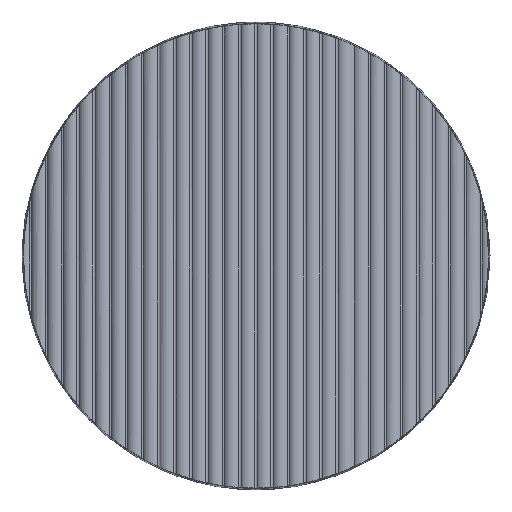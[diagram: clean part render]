
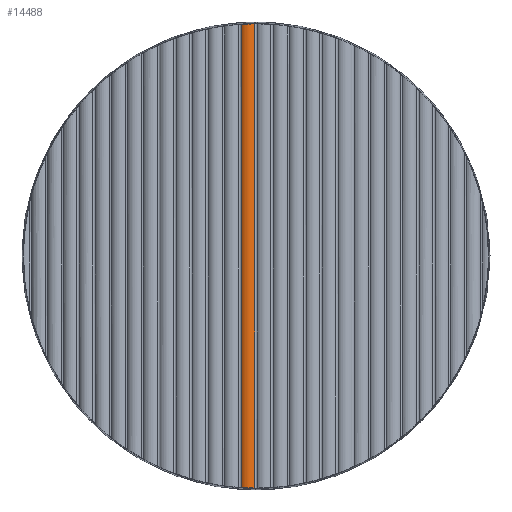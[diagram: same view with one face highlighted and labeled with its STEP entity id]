
A CAD part, front view. The second image highlights one B-rep face of the part: STEP entity #14488.
In plain terms, the highlighted cylindrical face has radius 5 mm (diameter 10 mm), a partial arc.
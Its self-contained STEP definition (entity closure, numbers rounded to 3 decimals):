
#5682=CARTESIAN_POINT('',(-7.959,-44.459,
-123.718));
#5683=CARTESIAN_POINT('',(-7.901,-44.521,
-123.721));
#5684=CARTESIAN_POINT('',(-7.782,-44.642,
-123.726));
#5685=CARTESIAN_POINT('',(-7.596,-44.812,
-123.734));
#5686=CARTESIAN_POINT('',(-7.401,-44.974,
-123.743));
#5687=CARTESIAN_POINT('',(-7.198,-45.125,
-123.752));
#5688=CARTESIAN_POINT('',(-6.988,-45.265,
-123.761));
#5689=CARTESIAN_POINT('',(-6.771,-45.395,
-123.771));
#5690=CARTESIAN_POINT('',(-6.548,-45.514,
-123.78));
#5691=CARTESIAN_POINT('',(-6.319,-45.622,
-123.79));
#5692=CARTESIAN_POINT('',(-6.085,-45.717,
-123.8));
#5693=CARTESIAN_POINT('',(-5.847,-45.801,
-123.81));
#5694=CARTESIAN_POINT('',(-5.604,-45.872,
-123.819));
#5695=CARTESIAN_POINT('',(-5.358,-45.932,
-123.829));
#5696=CARTESIAN_POINT('',(-5.11,-45.978,
-123.838));
#5697=CARTESIAN_POINT('',(-4.859,-46.012,
-123.848));
#5698=CARTESIAN_POINT('',(-4.607,-46.034,
-123.857));
#5699=CARTESIAN_POINT('',(-4.355,-46.042,
-123.866));
#5700=CARTESIAN_POINT('',(-4.102,-46.038,
-123.874));
#5701=CARTESIAN_POINT('',(-3.85,-46.021,
-123.882));
#5702=CARTESIAN_POINT('',(-3.599,-45.992,
-123.89));
#5703=CARTESIAN_POINT('',(-3.349,-45.95,
-123.898));
#5704=CARTESIAN_POINT('',(-3.103,-45.895,
-123.905));
#5705=CARTESIAN_POINT('',(-2.859,-45.828,
-123.912));
#5706=CARTESIAN_POINT('',(-2.619,-45.748,
-123.919));
#5707=CARTESIAN_POINT('',(-2.383,-45.657,
-123.925));
#5708=CARTESIAN_POINT('',(-2.153,-45.553,
-123.931));
#5709=CARTESIAN_POINT('',(-1.927,-45.439,
-123.937));
#5710=CARTESIAN_POINT('',(-1.708,-45.313,
-123.942));
#5711=CARTESIAN_POINT('',(-1.496,-45.176,
-123.947));
#5712=CARTESIAN_POINT('',(-1.291,-45.029,
-123.952));
#5713=CARTESIAN_POINT('',(-1.092,-44.87,
-123.957));
#5714=CARTESIAN_POINT('',(-0.9,-44.7,
-123.961));
#5715=CARTESIAN_POINT('',(-0.778,-44.58,
-123.964));
#5716=CARTESIAN_POINT('',(-0.718,-44.519,
-123.966));
#5718=DIRECTION('',(0.,0.,-1.));
#5719=VECTOR('',#5718,247.436);
#5720=CARTESIAN_POINT('',(-7.959,-44.459,
123.718));
#5721=LINE('',#5720,#5719);
#5722=CARTESIAN_POINT('',(-0.718,-44.519,
123.966));
#5723=CARTESIAN_POINT('',(-0.778,-44.58,
123.964));
#5724=CARTESIAN_POINT('',(-0.899,-44.699,
123.961));
#5725=CARTESIAN_POINT('',(-1.087,-44.866,
123.957));
#5726=CARTESIAN_POINT('',(-1.285,-45.024,
123.952));
#5727=CARTESIAN_POINT('',(-1.49,-45.172,
123.947));
#5728=CARTESIAN_POINT('',(-1.702,-45.309,
123.942));
#5729=CARTESIAN_POINT('',(-1.921,-45.435,
123.937));
#5730=CARTESIAN_POINT('',(-2.146,-45.55,
123.931));
#5731=CARTESIAN_POINT('',(-2.377,-45.654,
123.925));
#5732=CARTESIAN_POINT('',(-2.612,-45.746,
123.919));
#5733=CARTESIAN_POINT('',(-2.852,-45.825,
123.912));
#5734=CARTESIAN_POINT('',(-3.096,-45.893,
123.905));
#5735=CARTESIAN_POINT('',(-3.343,-45.948,
123.898));
#5736=CARTESIAN_POINT('',(-3.592,-45.991,
123.89));
#5737=CARTESIAN_POINT('',(-3.843,-46.021,
123.883));
#5738=CARTESIAN_POINT('',(-4.095,-46.038,
123.874));
#5739=CARTESIAN_POINT('',(-4.348,-46.043,
123.866));
#5740=CARTESIAN_POINT('',(-4.6,-46.034,
123.857));
#5741=CARTESIAN_POINT('',(-4.852,-46.013,
123.848));
#5742=CARTESIAN_POINT('',(-5.103,-45.979,
123.839));
#5743=CARTESIAN_POINT('',(-5.351,-45.933,
123.829));
#5744=CARTESIAN_POINT('',(-5.597,-45.874,
123.82));
#5745=CARTESIAN_POINT('',(-5.84,-45.803,
123.81));
#5746=CARTESIAN_POINT('',(-6.079,-45.72,
123.8));
#5747=CARTESIAN_POINT('',(-6.313,-45.624,
123.79));
#5748=CARTESIAN_POINT('',(-6.542,-45.517,
123.781));
#5749=CARTESIAN_POINT('',(-6.765,-45.399,
123.771));
#5750=CARTESIAN_POINT('',(-6.982,-45.269,
123.761));
#5751=CARTESIAN_POINT('',(-7.193,-45.129,
123.752));
#5752=CARTESIAN_POINT('',(-7.395,-44.978,
123.743));
#5753=CARTESIAN_POINT('',(-7.592,-44.816,
123.734));
#5754=CARTESIAN_POINT('',(-7.781,-44.643,
123.726));
#5755=CARTESIAN_POINT('',(-7.901,-44.522,
123.721));
#5756=CARTESIAN_POINT('',(-7.959,-44.459,
123.718));
#5758=DIRECTION('',(0.,0.,-1.));
#5759=VECTOR('',#5758,247.931);
#5760=CARTESIAN_POINT('',(-0.718,-44.519,
123.966));
#5761=LINE('',#5760,#5759);
#7516=CARTESIAN_POINT('',(-7.959,-44.459,
-123.718));
#7594=CARTESIAN_POINT('',(-0.718,-44.519,
123.966));
#14109=VERTEX_POINT('',#7516);
#14111=VERTEX_POINT('',#5716);
#14231=VERTEX_POINT('',#7594);
#14233=VERTEX_POINT('',#5756);
#14473=CARTESIAN_POINT('',(-4.31,-41.041,
125.));
#14474=DIRECTION('',(0.,0.,1.));
#14475=DIRECTION('',(-1.,0.,0.));
#14476=AXIS2_PLACEMENT_3D('',#14473,#14474,#14475);
#14477=CYLINDRICAL_SURFACE('',#14476,5.);
#14479=ORIENTED_EDGE('',*,*,#14478,.F.);
#14481=ORIENTED_EDGE('',*,*,#14480,.F.);
#14483=ORIENTED_EDGE('',*,*,#14482,.F.);
#14485=ORIENTED_EDGE('',*,*,#14484,.T.);
#14486=EDGE_LOOP('',(#14479,#14481,#14483,#14485));
#14487=FACE_OUTER_BOUND('',#14486,.F.);
#14488=ADVANCED_FACE('',(#14487),#14477,.T.);
#5717=B_SPLINE_CURVE_WITH_KNOTS('',3,(#5682,#5683,#5684,#5685,#5686,#5687,#5688,
#5689,#5690,#5691,#5692,#5693,#5694,#5695,#5696,#5697,#5698,#5699,#5700,#5701,
#5702,#5703,#5704,#5705,#5706,#5707,#5708,#5709,#5710,#5711,#5712,#5713,#5714,
#5715,#5716),.UNSPECIFIED.,.F.,.F.,(4,1,1,1,1,1,1,1,1,1,1,1,1,1,1,1,1,1,1,1,1,1,
1,1,1,1,1,1,1,1,1,1,4),(0.,0.031,0.063,0.094,0.125,0.156,
0.188,0.219,0.25,0.281,0.313,0.344,0.375,0.406,
0.438,0.469,0.5,0.531,0.563,0.594,0.625,0.656,
0.688,0.719,0.75,0.781,0.813,0.844,0.875,0.906,
0.938,0.969,1.),.UNSPECIFIED.);
#5757=B_SPLINE_CURVE_WITH_KNOTS('',3,(#5722,#5723,#5724,#5725,#5726,#5727,#5728,
#5729,#5730,#5731,#5732,#5733,#5734,#5735,#5736,#5737,#5738,#5739,#5740,#5741,
#5742,#5743,#5744,#5745,#5746,#5747,#5748,#5749,#5750,#5751,#5752,#5753,#5754,
#5755,#5756),.UNSPECIFIED.,.F.,.F.,(4,1,1,1,1,1,1,1,1,1,1,1,1,1,1,1,1,1,1,1,1,1,
1,1,1,1,1,1,1,1,1,1,4),(0.,0.031,0.063,0.094,0.125,0.156,
0.188,0.219,0.25,0.281,0.313,0.344,0.375,0.406,
0.438,0.469,0.5,0.531,0.563,0.594,0.625,0.656,
0.688,0.719,0.75,0.781,0.813,0.844,0.875,0.906,
0.938,0.969,1.),.UNSPECIFIED.);
#14478=EDGE_CURVE('',#14109,#14111,#5717,.T.);
#14480=EDGE_CURVE('',#14233,#14109,#5721,.T.);
#14482=EDGE_CURVE('',#14231,#14233,#5757,.T.);
#14484=EDGE_CURVE('',#14231,#14111,#5761,.T.);
